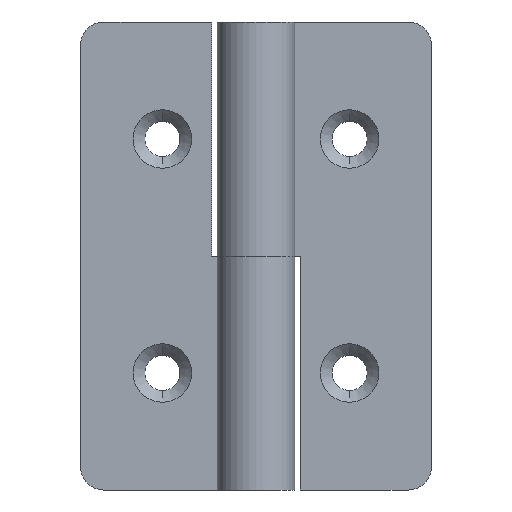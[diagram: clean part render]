
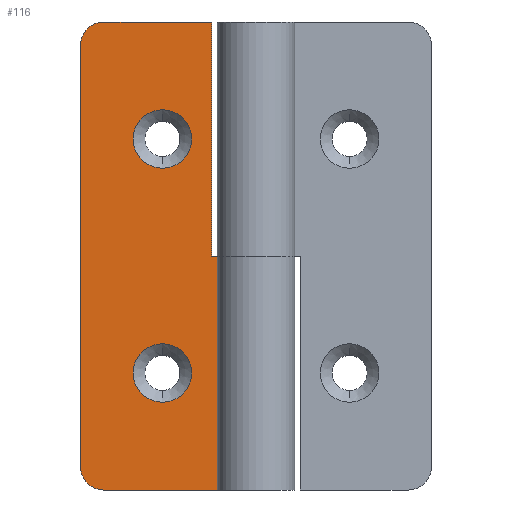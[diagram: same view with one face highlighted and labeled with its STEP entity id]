
A CAD part, front view. The second image highlights one B-rep face of the part: STEP entity #116.
In plain terms, the highlighted planar face has unit normal (0, -1, 0).
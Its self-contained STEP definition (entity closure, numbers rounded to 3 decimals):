
#32 = VERTEX_POINT ( 'NONE', #1161 ) ;
#42 = CARTESIAN_POINT ( 'NONE',  ( -15., 1.8, 0. ) ) ;
#59 = FACE_OUTER_BOUND ( 'NONE', #505, .T. ) ;
#64 = EDGE_CURVE ( 'NONE', #128, #1072, #1330, .T. ) ;
#77 = DIRECTION ( 'NONE',  ( 0., 0., 1. ) ) ;
#79 = CARTESIAN_POINT ( 'NONE',  ( -13., 1.8, 40. ) ) ;
#96 = VECTOR ( 'NONE', #1178, 1000. ) ;
#116 = ADVANCED_FACE ( 'NONE', ( #1180, #340, #59 ), #357, .F. ) ;
#128 = VERTEX_POINT ( 'NONE', #1477 ) ;
#143 = CARTESIAN_POINT ( 'NONE',  ( -8., 1.8, 10. ) ) ;
#192 = EDGE_CURVE ( 'NONE', #1056, #1072, #1321, .T. ) ;
#213 = ORIENTED_EDGE ( 'NONE', *, *, #949, .T. ) ;
#264 = DIRECTION ( 'NONE',  ( 0., 0., 1. ) ) ;
#272 = CIRCLE ( 'NONE', #1723, 2.5 ) ;
#283 = LINE ( 'NONE', #1836, #1796 ) ;
#300 = AXIS2_PLACEMENT_3D ( 'NONE', #1601, #1760, #1469 ) ;
#301 = ORIENTED_EDGE ( 'NONE', *, *, #945, .F. ) ;
#332 = CIRCLE ( 'NONE', #1319, 2. ) ;
#340 = FACE_BOUND ( 'NONE', #450, .T. ) ;
#354 = CARTESIAN_POINT ( 'NONE',  ( -15., 1.8, 38. ) ) ;
#357 = PLANE ( 'NONE',  #300 ) ;
#361 = CARTESIAN_POINT ( 'NONE',  ( -13., 1.8, 2. ) ) ;
#385 = ORIENTED_EDGE ( 'NONE', *, *, #420, .T. ) ;
#420 = EDGE_CURVE ( 'NONE', #537, #32, #482, .T. ) ;
#422 = CARTESIAN_POINT ( 'NONE',  ( -8., 1.8, 30. ) ) ;
#430 = VERTEX_POINT ( 'NONE', #1265 ) ;
#432 = ORIENTED_EDGE ( 'NONE', *, *, #64, .F. ) ;
#444 = ORIENTED_EDGE ( 'NONE', *, *, #1181, .T. ) ;
#448 = VERTEX_POINT ( 'NONE', #1415 ) ;
#450 = EDGE_LOOP ( 'NONE', ( #1126, #918 ) ) ;
#463 = ORIENTED_EDGE ( 'NONE', *, *, #975, .T. ) ;
#482 = LINE ( 'NONE', #693, #96 ) ;
#488 = DIRECTION ( 'NONE',  ( 0., -1., 0. ) ) ;
#489 = VECTOR ( 'NONE', #1625, 1000. ) ;
#505 = EDGE_LOOP ( 'NONE', ( #301, #779, #385, #463, #590, #432, #685, #595 ) ) ;
#537 = VERTEX_POINT ( 'NONE', #354 ) ;
#554 = VERTEX_POINT ( 'NONE', #79 ) ;
#590 = ORIENTED_EDGE ( 'NONE', *, *, #192, .T. ) ;
#595 = ORIENTED_EDGE ( 'NONE', *, *, #1708, .T. ) ;
#605 = DIRECTION ( 'NONE',  ( 0., -1., 0. ) ) ;
#615 = DIRECTION ( 'NONE',  ( 1., 0., 0. ) ) ;
#655 = LINE ( 'NONE', #1341, #489 ) ;
#669 = EDGE_CURVE ( 'NONE', #430, #1174, #272, .T. ) ;
#685 = ORIENTED_EDGE ( 'NONE', *, *, #1353, .T. ) ;
#693 = CARTESIAN_POINT ( 'NONE',  ( -15., 1.8, 40. ) ) ;
#763 = CARTESIAN_POINT ( 'NONE',  ( 0., 1.8, 0. ) ) ;
#779 = ORIENTED_EDGE ( 'NONE', *, *, #1281, .T. ) ;
#780 = CARTESIAN_POINT ( 'NONE',  ( -13., 1.8, 0. ) ) ;
#796 = CARTESIAN_POINT ( 'NONE',  ( -8., 1.8, 32.5 ) ) ;
#798 = DIRECTION ( 'NONE',  ( 0., 1., 0. ) ) ;
#810 = AXIS2_PLACEMENT_3D ( 'NONE', #1071, #798, #1782 ) ;
#868 = AXIS2_PLACEMENT_3D ( 'NONE', #1247, #1803, #1107 ) ;
#872 = VECTOR ( 'NONE', #917, 1000. ) ;
#876 = VERTEX_POINT ( 'NONE', #1460 ) ;
#895 = VECTOR ( 'NONE', #615, 1000. ) ;
#898 = CARTESIAN_POINT ( 'NONE',  ( 0., 1.8, 40. ) ) ;
#911 = CARTESIAN_POINT ( 'NONE',  ( -3.8, 1.8, 40. ) ) ;
#917 = DIRECTION ( 'NONE',  ( -1., 0., 0. ) ) ;
#918 = ORIENTED_EDGE ( 'NONE', *, *, #1115, .T. ) ;
#931 = CIRCLE ( 'NONE', #868, 2.5 ) ;
#945 = EDGE_CURVE ( 'NONE', #554, #1052, #655, .T. ) ;
#949 = EDGE_CURVE ( 'NONE', #1606, #448, #991, .T. ) ;
#975 = EDGE_CURVE ( 'NONE', #32, #1056, #332, .T. ) ;
#991 = CIRCLE ( 'NONE', #810, 2.5 ) ;
#1033 = DIRECTION ( 'NONE',  ( 0., 0., 1. ) ) ;
#1049 = DIRECTION ( 'NONE',  ( 0., 0., -1. ) ) ;
#1050 = LINE ( 'NONE', #1602, #872 ) ;
#1051 = CIRCLE ( 'NONE', #1641, 2.5 ) ;
#1052 = VERTEX_POINT ( 'NONE', #911 ) ;
#1056 = VERTEX_POINT ( 'NONE', #780 ) ;
#1071 = CARTESIAN_POINT ( 'NONE',  ( -8., 1.8, 30. ) ) ;
#1072 = VERTEX_POINT ( 'NONE', #763 ) ;
#1107 = DIRECTION ( 'NONE',  ( 0., 0., 1. ) ) ;
#1110 = DIRECTION ( 'NONE',  ( 0., 1., 0. ) ) ;
#1115 = EDGE_CURVE ( 'NONE', #1174, #430, #931, .T. ) ;
#1126 = ORIENTED_EDGE ( 'NONE', *, *, #669, .T. ) ;
#1161 = CARTESIAN_POINT ( 'NONE',  ( -15., 1.8, 2. ) ) ;
#1174 = VERTEX_POINT ( 'NONE', #1537 ) ;
#1178 = DIRECTION ( 'NONE',  ( 0., 0., -1. ) ) ;
#1180 = FACE_BOUND ( 'NONE', #1527, .T. ) ;
#1181 = EDGE_CURVE ( 'NONE', #448, #1606, #1051, .T. ) ;
#1247 = CARTESIAN_POINT ( 'NONE',  ( -8., 1.8, 10. ) ) ;
#1265 = CARTESIAN_POINT ( 'NONE',  ( -8., 1.8, 7.5 ) ) ;
#1281 = EDGE_CURVE ( 'NONE', #554, #537, #1288, .T. ) ;
#1288 = CIRCLE ( 'NONE', #1612, 2. ) ;
#1319 = AXIS2_PLACEMENT_3D ( 'NONE', #361, #488, #77 ) ;
#1321 = LINE ( 'NONE', #42, #895 ) ;
#1330 = LINE ( 'NONE', #898, #1785 ) ;
#1341 = CARTESIAN_POINT ( 'NONE',  ( -15., 1.8, 40. ) ) ;
#1353 = EDGE_CURVE ( 'NONE', #128, #876, #1050, .T. ) ;
#1396 = DIRECTION ( 'NONE',  ( 0., 1., 0. ) ) ;
#1415 = CARTESIAN_POINT ( 'NONE',  ( -8., 1.8, 27.5 ) ) ;
#1420 = DIRECTION ( 'NONE',  ( 0., 0., 1. ) ) ;
#1449 = DIRECTION ( 'NONE',  ( 0., 0., 1. ) ) ;
#1460 = CARTESIAN_POINT ( 'NONE',  ( -3.8, 1.8, 20. ) ) ;
#1469 = DIRECTION ( 'NONE',  ( 0., 0., 1. ) ) ;
#1477 = CARTESIAN_POINT ( 'NONE',  ( 0., 1.8, 20. ) ) ;
#1527 = EDGE_LOOP ( 'NONE', ( #444, #213 ) ) ;
#1537 = CARTESIAN_POINT ( 'NONE',  ( -8., 1.8, 12.5 ) ) ;
#1601 = CARTESIAN_POINT ( 'NONE',  ( -15., 1.8, 40. ) ) ;
#1602 = CARTESIAN_POINT ( 'NONE',  ( -15., 1.8, 20. ) ) ;
#1606 = VERTEX_POINT ( 'NONE', #796 ) ;
#1612 = AXIS2_PLACEMENT_3D ( 'NONE', #1719, #605, #1033 ) ;
#1625 = DIRECTION ( 'NONE',  ( 1., 0., 0. ) ) ;
#1641 = AXIS2_PLACEMENT_3D ( 'NONE', #422, #1396, #264 ) ;
#1708 = EDGE_CURVE ( 'NONE', #876, #1052, #283, .T. ) ;
#1719 = CARTESIAN_POINT ( 'NONE',  ( -13., 1.8, 38. ) ) ;
#1723 = AXIS2_PLACEMENT_3D ( 'NONE', #143, #1110, #1420 ) ;
#1760 = DIRECTION ( 'NONE',  ( 0., 1., 0. ) ) ;
#1782 = DIRECTION ( 'NONE',  ( 0., 0., 1. ) ) ;
#1785 = VECTOR ( 'NONE', #1049, 1000. ) ;
#1796 = VECTOR ( 'NONE', #1449, 1000. ) ;
#1803 = DIRECTION ( 'NONE',  ( 0., 1., 0. ) ) ;
#1836 = CARTESIAN_POINT ( 'NONE',  ( -3.8, 1.8, 40. ) ) ;
